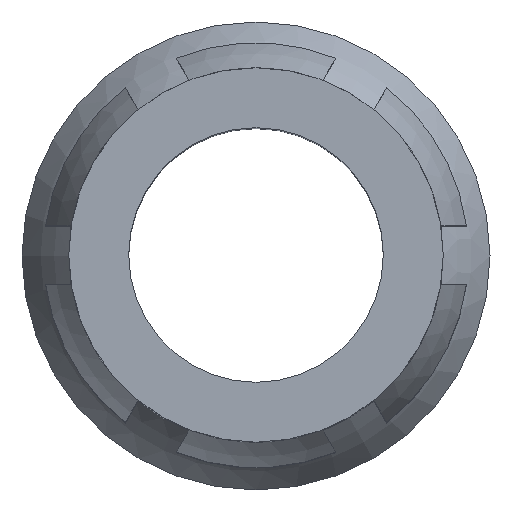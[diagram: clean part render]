
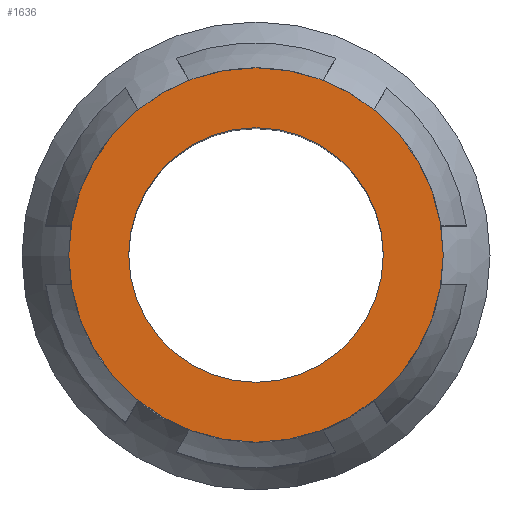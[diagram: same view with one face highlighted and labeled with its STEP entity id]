
A CAD part, top view. The second image highlights one B-rep face of the part: STEP entity #1636.
In plain terms, the highlighted planar face has unit normal (0, 0, 1).
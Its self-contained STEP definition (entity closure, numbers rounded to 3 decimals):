
#6 = ORIENTED_EDGE ( 'NONE', *, *, #305, .T. ) ;
#96 = CIRCLE ( 'NONE', #1624, 2.54 ) ;
#192 = VERTEX_POINT ( 'NONE', #1774 ) ;
#251 = FACE_BOUND ( 'NONE', #1997, .T. ) ;
#295 = DIRECTION ( 'NONE',  ( -1., 0., 0. ) ) ;
#305 = EDGE_CURVE ( 'NONE', #746, #746, #1066, .T. ) ;
#341 = ORIENTED_EDGE ( 'NONE', *, *, #1752, .F. ) ;
#505 = EDGE_LOOP ( 'NONE', ( #341 ) ) ;
#621 = CARTESIAN_POINT ( 'NONE',  ( 8.963, 0., -11.674 ) ) ;
#746 = VERTEX_POINT ( 'NONE', #2110 ) ;
#1066 = CIRCLE ( 'NONE', #1800, 1.727 ) ;
#1154 = AXIS2_PLACEMENT_3D ( 'NONE', #1574, #2112, #1566 ) ;
#1173 = FACE_OUTER_BOUND ( 'NONE', #505, .T. ) ;
#1531 = PLANE ( 'NONE',  #1154 ) ;
#1566 = DIRECTION ( 'NONE',  ( -1., 0., 0. ) ) ;
#1574 = CARTESIAN_POINT ( 'NONE',  ( 11.503, 0., -11.674 ) ) ;
#1624 = AXIS2_PLACEMENT_3D ( 'NONE', #1936, #2159, #2194 ) ;
#1636 = ADVANCED_FACE ( 'NONE', ( #251, #1173 ), #1531, .F. ) ;
#1752 = EDGE_CURVE ( 'NONE', #192, #192, #96, .T. ) ;
#1774 = CARTESIAN_POINT ( 'NONE',  ( 6.423, 0., -11.674 ) ) ;
#1800 = AXIS2_PLACEMENT_3D ( 'NONE', #621, #2196, #295 ) ;
#1936 = CARTESIAN_POINT ( 'NONE',  ( 8.963, 0., -11.674 ) ) ;
#1997 = EDGE_LOOP ( 'NONE', ( #6 ) ) ;
#2110 = CARTESIAN_POINT ( 'NONE',  ( 7.236, 0., -11.674 ) ) ;
#2112 = DIRECTION ( 'NONE',  ( 0., 0., -1. ) ) ;
#2159 = DIRECTION ( 'NONE',  ( 0., 0., -1. ) ) ;
#2194 = DIRECTION ( 'NONE',  ( -1., 0., 0. ) ) ;
#2196 = DIRECTION ( 'NONE',  ( 0., 0., -1. ) ) ;
